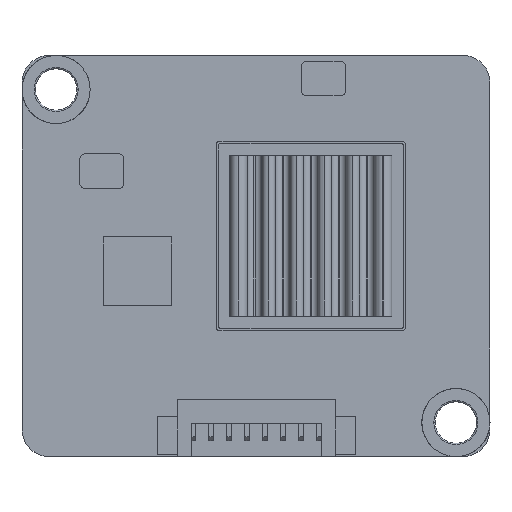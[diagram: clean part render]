
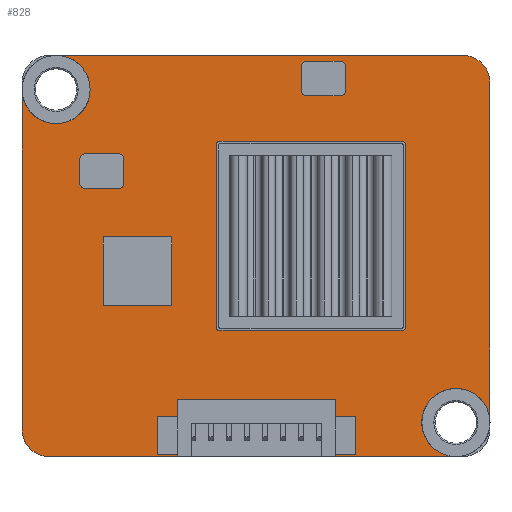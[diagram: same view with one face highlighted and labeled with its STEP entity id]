
A CAD part, top view. The second image highlights one B-rep face of the part: STEP entity #828.
In plain terms, the highlighted planar face has unit normal (0, 0, 1).
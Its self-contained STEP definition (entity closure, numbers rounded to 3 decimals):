
#63=TRIMMED_CURVE($,#243,(#13780),(#13781),.T.,.CARTESIAN.);
#65=TRIMMED_CURVE($,#245,(#13799),(#13800),.T.,.CARTESIAN.);
#67=TRIMMED_CURVE($,#247,(#13816),(#13817),.T.,.CARTESIAN.);
#69=TRIMMED_CURVE($,#249,(#13841),(#13842),.T.,.CARTESIAN.);
#73=TRIMMED_CURVE($,#253,(#13870),(#13871),.T.,.CARTESIAN.);
#243=CIRCLE('',#10622,2.);
#245=CIRCLE('',#10624,2.);
#247=CIRCLE('',#10626,2.55);
#249=CIRCLE('',#10628,2.55);
#253=CIRCLE('',#10632,2.55);
#828=ADVANCED_FACE('',(#1504),#9894,.T.);
#1504=FACE_OUTER_BOUND('',#2180,.T.);
#2180=EDGE_LOOP('',(#3486,#3487,#3488,#3489,#3490,#3491,#3492,#3493,#3494));
#3486=ORIENTED_EDGE('',*,*,#6214,.T.);
#3487=ORIENTED_EDGE('',*,*,#6213,.T.);
#3488=ORIENTED_EDGE('',*,*,#6184,.T.);
#3489=ORIENTED_EDGE('',*,*,#6186,.T.);
#3490=ORIENTED_EDGE('',*,*,#6191,.F.);
#3491=ORIENTED_EDGE('',*,*,#6202,.F.);
#3492=ORIENTED_EDGE('',*,*,#6201,.T.);
#3493=ORIENTED_EDGE('',*,*,#6176,.T.);
#3494=ORIENTED_EDGE('',*,*,#6178,.T.);
#6176=EDGE_CURVE('',#8940,#8941,#63,.T.);
#6178=EDGE_CURVE('',#8941,#8957,#7725,.T.);
#6184=EDGE_CURVE('',#8944,#8945,#65,.T.);
#6186=EDGE_CURVE('',#8945,#8948,#7731,.T.);
#6191=EDGE_CURVE('',#8934,#8948,#67,.T.);
#6201=EDGE_CURVE('',#8953,#8940,#7743,.T.);
#6202=EDGE_CURVE('',#8953,#8934,#69,.T.);
#6213=EDGE_CURVE('',#8960,#8944,#7751,.T.);
#6214=EDGE_CURVE('',#8957,#8960,#73,.T.);
#7725=B_SPLINE_CURVE_WITH_KNOTS('',1,(#13784,#13785,#13786),
 .UNSPECIFIED.,.F.,.F.,(2,1,2),(31.142,59.822,61.353),
 .UNSPECIFIED.);
#7731=B_SPLINE_CURVE_WITH_KNOTS('',1,(#13803,#13804,#13805),
 .UNSPECIFIED.,.F.,.F.,(2,1,2),(94.425,123.105,124.636),
 .UNSPECIFIED.);
#7743=B_SPLINE_CURVE_WITH_KNOTS('',1,(#13837,#13838,#13839),
 .UNSPECIFIED.,.F.,.F.,(2,1,2),(129.355,130.886,154.566),
 .UNSPECIFIED.);
#7751=B_SPLINE_CURVE_WITH_KNOTS('',1,(#13866,#13867,#13868),
 .UNSPECIFIED.,.F.,.F.,(2,1,2),(66.072,67.603,91.283),
 .UNSPECIFIED.);
#8934=VERTEX_POINT('',#13687);
#8940=VERTEX_POINT('',#13693);
#8941=VERTEX_POINT('',#13694);
#8944=VERTEX_POINT('',#13697);
#8945=VERTEX_POINT('',#13698);
#8948=VERTEX_POINT('',#13701);
#8953=VERTEX_POINT('',#13706);
#8957=VERTEX_POINT('',#13710);
#8960=VERTEX_POINT('',#13713);
#9894=PLANE('',#10576);
#10576=AXIS2_PLACEMENT_3D('',#13645,#11432,$);
#10622=AXIS2_PLACEMENT_3D($,#13779,#11482,#11483);
#10624=AXIS2_PLACEMENT_3D($,#13798,#11486,#11487);
#10626=AXIS2_PLACEMENT_3D($,#13815,#11490,#11491);
#10628=AXIS2_PLACEMENT_3D($,#13840,#11494,#11495);
#10632=AXIS2_PLACEMENT_3D($,#13869,#11502,#11503);
#11432=DIRECTION('',(0.,0.,1.));
#11482=DIRECTION('',(0.,0.,1.));
#11483=DIRECTION('',(-1.,0.,0.));
#11486=DIRECTION('',(0.,0.,1.));
#11487=DIRECTION('',(1.,0.,0.));
#11490=DIRECTION('',(0.,0.,1.));
#11491=DIRECTION('',(1.,0.,0.));
#11494=DIRECTION('',(0.,0.,1.));
#11495=DIRECTION('',(-0.995,-0.099,0.));
#11502=DIRECTION('',(0.,0.,-1.));
#11503=DIRECTION('',(-0.099,-0.995,0.));
#13645=CARTESIAN_POINT('',(-17.5,-15.,1.7));
#13687=CARTESIAN_POINT('',(-12.412,12.462,1.7));
#13693=CARTESIAN_POINT('',(-17.5,-13.,1.7));
#13694=CARTESIAN_POINT('',(-15.5,-15.,1.7));
#13697=CARTESIAN_POINT('',(17.5,13.,1.7));
#13698=CARTESIAN_POINT('',(15.5,15.,1.7));
#13701=CARTESIAN_POINT('',(-14.711,15.,1.7));
#13706=CARTESIAN_POINT('',(-17.5,12.211,1.7));
#13710=CARTESIAN_POINT('',(14.711,-15.,1.7));
#13713=CARTESIAN_POINT('',(17.5,-12.211,1.7));
#13779=CARTESIAN_POINT('',(-15.5,-13.,1.7));
#13780=CARTESIAN_POINT('',(-17.5,-13.,1.7));
#13781=CARTESIAN_POINT('',(-15.5,-15.,1.7));
#13784=CARTESIAN_POINT('',(-15.5,-15.,1.7));
#13785=CARTESIAN_POINT('',(13.18,-15.,1.7));
#13786=CARTESIAN_POINT('',(14.711,-15.,1.7));
#13798=CARTESIAN_POINT('',(15.5,13.,1.7));
#13799=CARTESIAN_POINT('',(17.5,13.,1.7));
#13800=CARTESIAN_POINT('',(15.5,15.,1.7));
#13803=CARTESIAN_POINT('',(15.5,15.,1.7));
#13804=CARTESIAN_POINT('',(-13.18,15.,1.7));
#13805=CARTESIAN_POINT('',(-14.711,15.,1.7));
#13815=CARTESIAN_POINT('',(-14.962,12.462,1.7));
#13816=CARTESIAN_POINT('',(-12.412,12.462,1.7));
#13817=CARTESIAN_POINT('',(-14.711,15.,1.7));
#13837=CARTESIAN_POINT('',(-17.5,12.211,1.7));
#13838=CARTESIAN_POINT('',(-17.5,10.68,1.7));
#13839=CARTESIAN_POINT('',(-17.5,-13.,1.7));
#13840=CARTESIAN_POINT('',(-14.962,12.462,1.7));
#13841=CARTESIAN_POINT('',(-17.5,12.211,1.7));
#13842=CARTESIAN_POINT('',(-12.412,12.462,1.7));
#13866=CARTESIAN_POINT('',(17.5,-12.211,1.7));
#13867=CARTESIAN_POINT('',(17.5,-10.68,1.7));
#13868=CARTESIAN_POINT('',(17.5,13.,1.7));
#13869=CARTESIAN_POINT('',(14.962,-12.462,1.7));
#13870=CARTESIAN_POINT('',(14.711,-15.,1.7));
#13871=CARTESIAN_POINT('',(17.5,-12.211,1.7));
